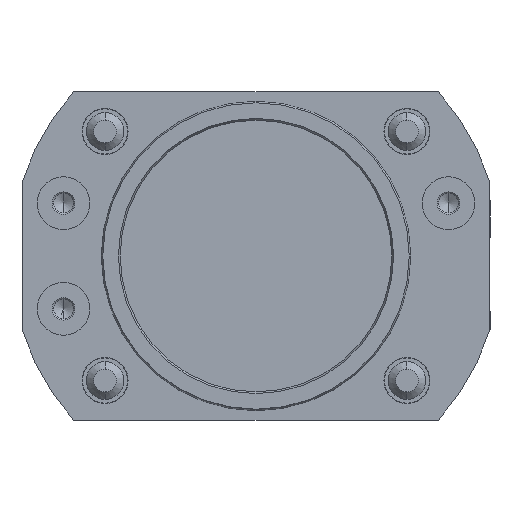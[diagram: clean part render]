
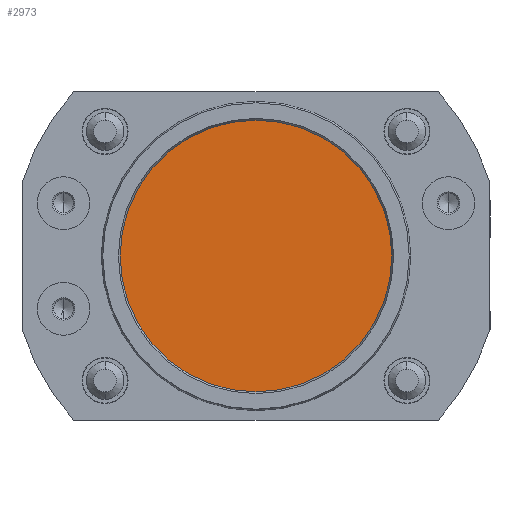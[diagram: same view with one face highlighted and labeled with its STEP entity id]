
A CAD part, front view. The second image highlights one B-rep face of the part: STEP entity #2973.
In plain terms, the highlighted planar face has unit normal (0, -1, 0).
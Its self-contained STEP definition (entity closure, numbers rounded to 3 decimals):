
#350 = VERTEX_POINT ( 'NONE', #3514 ) ;
#468 = VERTEX_POINT ( 'NONE', #3871 ) ;
#475 = EDGE_CURVE ( 'NONE', #350, #468, #3872, .T. ) ;
#2769 = ORIENTED_EDGE ( 'NONE', *, *, #475, .F. ) ;
#2792 = EDGE_CURVE ( 'NONE', #468, #350, #5056, .T. ) ;
#2796 = ORIENTED_EDGE ( 'NONE', *, *, #2792, .F. ) ;
#2973 = ADVANCED_FACE ( 'NONE', ( #5331 ), #5326, .T. ) ;
#2982 = EDGE_LOOP ( 'NONE', ( #2796, #2769 ) ) ;
#3514 = CARTESIAN_POINT ( 'NONE',  ( 0., 3., -18. ) ) ;
#3857 = DIRECTION ( 'NONE',  ( 0., 0., 1. ) ) ;
#3858 = DIRECTION ( 'NONE',  ( 0., 1., 0. ) ) ;
#3859 = AXIS2_PLACEMENT_3D ( 'NONE', #3867, #3858, #3857 ) ;
#3867 = CARTESIAN_POINT ( 'NONE',  ( 0., 3., 0. ) ) ;
#3871 = CARTESIAN_POINT ( 'NONE',  ( 0., 3., 18. ) ) ;
#3872 = CIRCLE ( 'NONE', #3859, 18. ) ;
#5052 = DIRECTION ( 'NONE',  ( 0., 0., 1. ) ) ;
#5053 = DIRECTION ( 'NONE',  ( 0., 1., 0. ) ) ;
#5054 = CARTESIAN_POINT ( 'NONE',  ( 0., 3., 0. ) ) ;
#5055 = AXIS2_PLACEMENT_3D ( 'NONE', #5054, #5053, #5052 ) ;
#5056 = CIRCLE ( 'NONE', #5055, 18. ) ;
#5310 = DIRECTION ( 'NONE',  ( 0., -1., 0. ) ) ;
#5311 = CARTESIAN_POINT ( 'NONE',  ( 0., 3., 0. ) ) ;
#5324 = DIRECTION ( 'NONE',  ( 0., 0., -1. ) ) ;
#5326 = PLANE ( 'NONE',  #5330 ) ;
#5330 = AXIS2_PLACEMENT_3D ( 'NONE', #5311, #5310, #5324 ) ;
#5331 = FACE_OUTER_BOUND ( 'NONE', #2982, .T. ) ;
